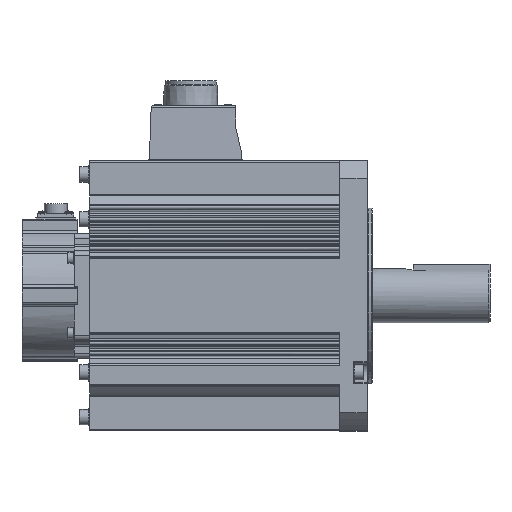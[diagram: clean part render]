
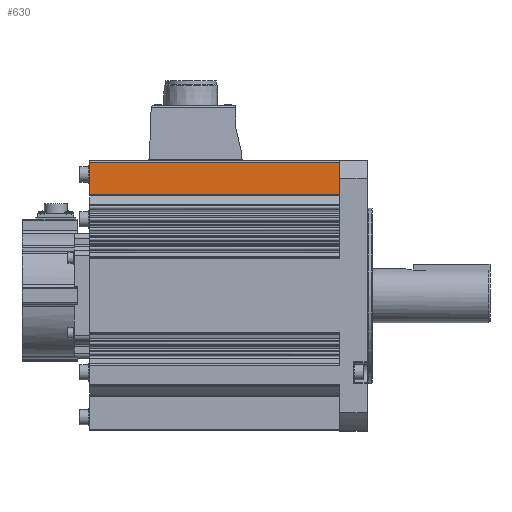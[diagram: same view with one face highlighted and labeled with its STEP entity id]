
A CAD part, top view. The second image highlights one B-rep face of the part: STEP entity #630.
In plain terms, the highlighted planar face has unit normal (0, 0, 1).
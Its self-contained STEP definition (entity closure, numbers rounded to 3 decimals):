
#630 = ADVANCED_FACE( '', ( #1917 ), #1918, .T. );
#1917 = FACE_OUTER_BOUND( '', #3323, .T. );
#1918 = PLANE( '', #3324 );
#3323 = EDGE_LOOP( '', ( #8031, #8032, #8033, #8034 ) );
#3324 = AXIS2_PLACEMENT_3D( '', #8035, #8036, #8037 );
#8031 = ORIENTED_EDGE( '', *, *, #10344, .T. );
#8032 = ORIENTED_EDGE( '', *, *, #10630, .F. );
#8033 = ORIENTED_EDGE( '', *, *, #10631, .T. );
#8034 = ORIENTED_EDGE( '', *, *, #10628, .T. );
#8035 = CARTESIAN_POINT( '', ( -181., 65.915, 58.8 ) );
#8036 = DIRECTION( '', ( 0., 0., 1. ) );
#8037 = DIRECTION( '', ( 0., -1., 0. ) );
#10344 = EDGE_CURVE( '', #12944, #12941, #12945, .T. );
#10628 = EDGE_CURVE( '', #13437, #12944, #13438, .T. );
#10630 = EDGE_CURVE( '', #13440, #12941, #13441, .T. );
#10631 = EDGE_CURVE( '', #13440, #13437, #13442, .T. );
#12941 = VERTEX_POINT( '', #16941 );
#12944 = VERTEX_POINT( '', #16944 );
#12945 = LINE( '', #16945, #16946 );
#13437 = VERTEX_POINT( '', #17581 );
#13438 = LINE( '', #17582, #17583 );
#13440 = VERTEX_POINT( '', #17585 );
#13441 = LINE( '', #17586, #17587 );
#13442 = LINE( '', #17588, #17589 );
#16941 = CARTESIAN_POINT( '', ( -18., 87.003, 58.8 ) );
#16944 = CARTESIAN_POINT( '', ( -18., 65.915, 58.8 ) );
#16945 = CARTESIAN_POINT( '', ( -18., 87.003, 58.8 ) );
#16946 = VECTOR( '', #20337, 1. );
#17581 = CARTESIAN_POINT( '', ( -181., 65.915, 58.8 ) );
#17582 = CARTESIAN_POINT( '', ( -181., 65.915, 58.8 ) );
#17583 = VECTOR( '', #20901, 1. );
#17585 = CARTESIAN_POINT( '', ( -181., 87.003, 58.8 ) );
#17586 = CARTESIAN_POINT( '', ( -181., 87.003, 58.8 ) );
#17587 = VECTOR( '', #20905, 1. );
#17588 = CARTESIAN_POINT( '', ( -181., 87.003, 58.8 ) );
#17589 = VECTOR( '', #20906, 1. );
#20337 = DIRECTION( '', ( 0., 1., 0. ) );
#20901 = DIRECTION( '', ( 1., 0., 0. ) );
#20905 = DIRECTION( '', ( 1., 0., 0. ) );
#20906 = DIRECTION( '', ( 0., -1., 0. ) );
